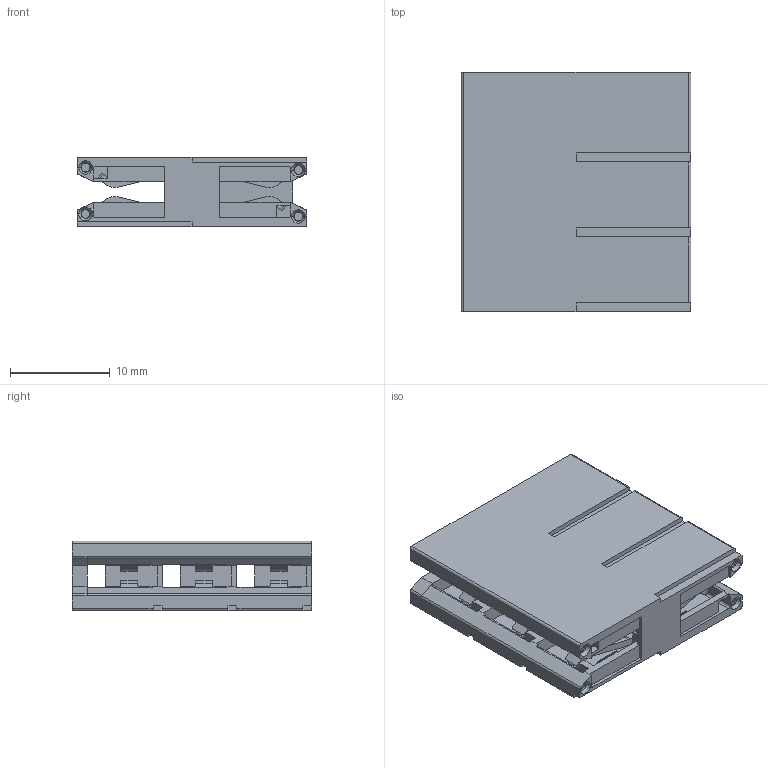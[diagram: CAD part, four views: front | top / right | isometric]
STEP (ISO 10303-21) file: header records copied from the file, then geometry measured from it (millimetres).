
FILE_DESCRIPTION((''),'2;1');
FILE_NAME('3PIN_SW0001','2019-06-06T',('zhenbing.lai'),(''),'CREO PARAMETRIC BY PTC INC, 2016260','CREO PARAMETRIC BY PTC INC, 2016260','');
FILE_SCHEMA(('CONFIG_CONTROL_DESIGN'));
Length unit declared in the file: millimetre
Products named in the file (1): 3PIN_SW0001
Bounding box: 23 x 24 x 7 mm (x, y, z)
Volume: 1676 mm3; surface area: 3988.6 mm2
Topology: 1 solids, 1 shells, 690 faces, 1950 edges, 1264 vertices
Faces by surface type: plane 434, cylinder 208, cone 40, torus 8
Entity records: 22386 total; most frequent: CARTESIAN_POINT 4261, ORIENTED_EDGE 3900, DIRECTION 3632, EDGE_CURVE 1950, VECTOR 1534, LINE 1534, VERTEX_POINT 1264, AXIS2_PLACEMENT_3D 1049
